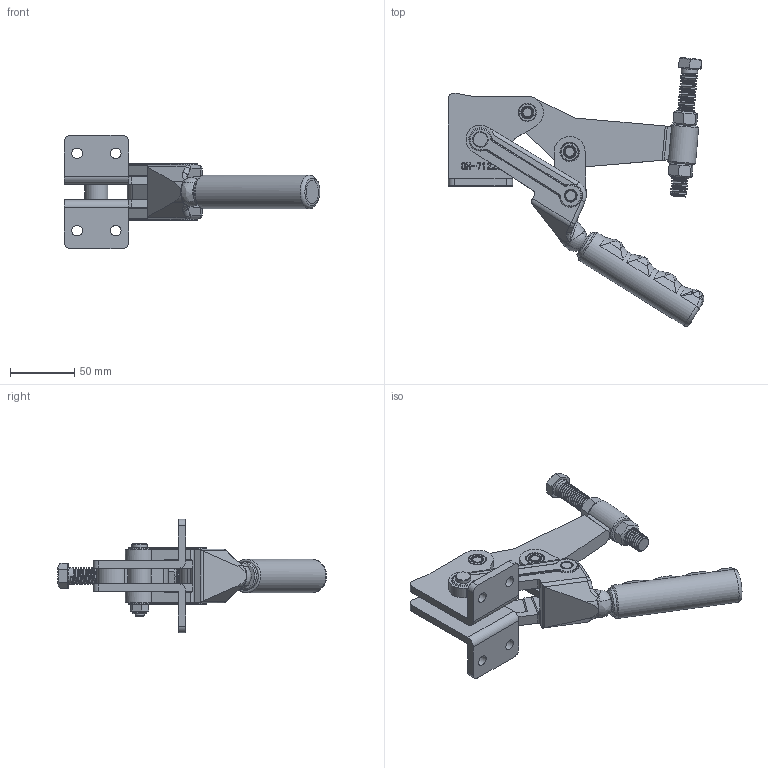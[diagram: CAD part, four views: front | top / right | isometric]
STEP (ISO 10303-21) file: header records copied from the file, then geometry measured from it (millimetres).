
FILE_DESCRIPTION(/* description */ ('STEP AP203'),/* implementation_level */ '2;1');
FILE_NAME(/* name */ 'D:\Vault_2016\Projekty\NASZ KATALOG\CLAMPTEK\STRONA\Heavy duty weldables\CH-71225\CH-71225_OTWARTY.stp',/* time_stamp */ '2019-01-21T09:19:36+01:00',/* author */ ('CADENGINEERING4'),/* organization */ ('Î¢ÈíÖÐ¹ú'),/* preprocessor_version */ 'ST-DEVELOPER v17.2',/* originating_system */ 'Autodesk Inventor 2019',/* authorisation */ '');
FILE_SCHEMA (('AUTOMOTIVE_DESIGN { 1 0 10303 214 3 1 1 }'));
Products named in the file (14): CH-71225_OTWARTY; 71225-01_Ä¬ÈÏ; 71225-04_Ä¬ÈÏ_°´¼Ó¹
¤_; 1210017-01_Ä¬ÈÏ; 1210017-02_Ä¬ÈÏ; 71220-04_Ä¬ÈÏ_°´¼Ó¹
¤_; M8_Ä¬ÈÏ; 71220-07_Ä¬ÈÏ; 71220-11_Ä¬ÈÏ; 71220-09_Ä¬ÈÏ; 71220-03_Ä¬ÈÏ; 71220-08_Ä¬ÈÏ; 71220-06_Ä¬ÈÏ; 71220-10_Ä¬ÈÏ
Assembly tree (23 placements, depth 2):
  CH-71225_OTWARTY
    71225-01_Ä¬ÈÏ
    71225-04_Ä¬ÈÏ_°´¼Ó¹
¤_
    1210017-02_Ä¬ÈÏ  x2
    71220-06_Ä¬ÈÏ  x8
    1210017-01_Ä¬ÈÏ
    71220-03_Ä¬ÈÏ  x2
    71220-08_Ä¬ÈÏ  x2
    71220-04_Ä¬ÈÏ_°´¼Ó¹
¤_
    M8_Ä¬ÈÏ
    71220-07_Ä¬ÈÏ
    71220-11_Ä¬ÈÏ
    71220-09_Ä¬ÈÏ
    71220-10_Ä¬ÈÏ
Bounding box: 198.5 x 208.74 x 88 mm (x, y, z)
Volume: 285984.7 mm3; surface area: 116372.5 mm2
Topology: 28 solids, 28 shells, 2200 faces, 6402 edges, 4281 vertices
Faces by surface type: plane 988, cylinder 866, bspline 206, cone 89, torus 47, sphere 4
Full cylindrical faces by diameter (mm): 3 x1, 4.2 x1, 5.6 x1, 6.5 x5, 7 x1, 8 x6, 8.3 x4, 9 x15, 9.1 x1, 10.5 x8, 11 x1, 12 x1, 12.2 x1, 12.7 x46, 14 x16, 18 x1, 22 x3, 26 x1
Entity records: 92271 total; most frequent: CARTESIAN_POINT 44888, ORIENTED_EDGE 10338, DIRECTION 9298, EDGE_CURVE 5169, VERTEX_POINT 3453, AXIS2_PLACEMENT_3D 3122, LINE 3054, VECTOR 3054
